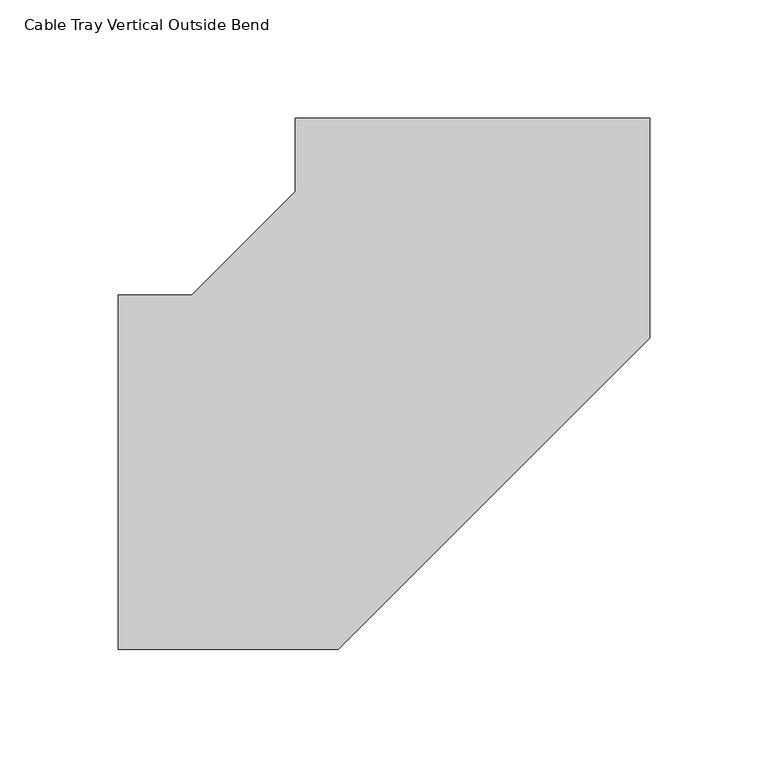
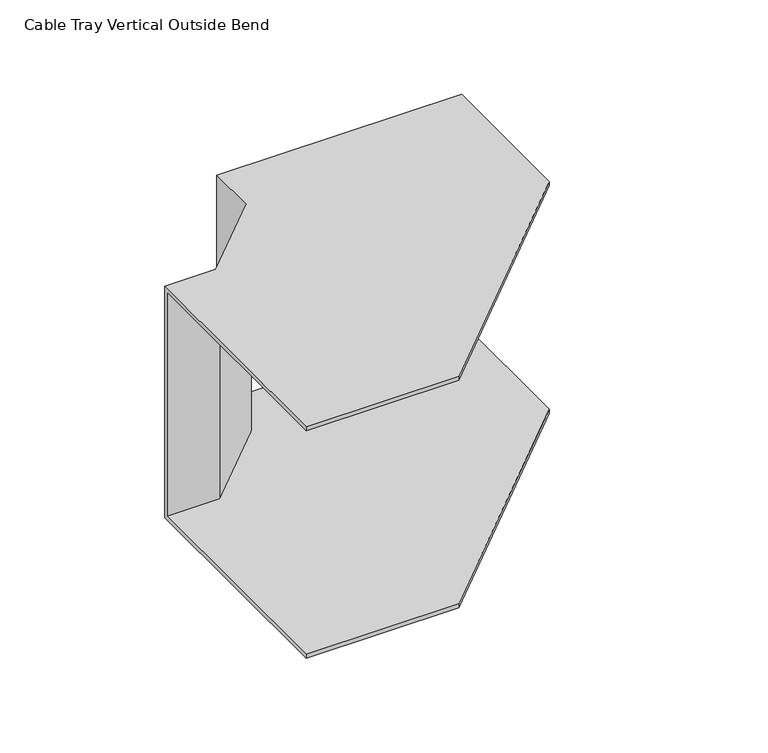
"""IFC4 building model written with IfcOpenShell, lengths in millimetres: cable carrier fitting geometry, Cable Tray Vertical Outside Bend : ELEC_ELV_TKG_N2402."""

import ifcopenshell
import ifcopenshell.guid

model = None  # the IFC model being written
_history = None  # IfcOwnerHistory: only IFC2X3 demands one
_inside = {}  # id of a spatial element -> (the spatial element, [elements in it])
_under = {}  # id of a project, library or spatial element -> (it, [spatial elements below it])
_declared = {}  # id of a project -> (the project, [libraries it declares])
_typed = {}  # id of a type object -> (the type object, [elements of that type])
_made_of = {}  # id of a material, layer set ... -> (it, [elements and type objects made of it])


def new_model(schema):
    """Start an empty IFC model of exactly this schema.

    Asked for "IFC4X3", IfcOpenShell would pick the latest addendum, in which some entities
    have other attributes; the version numbers below select the first issue.
    IFC2X3 requires an IfcOwnerHistory on every rooted entity: one is made here for all.
    """
    global model, _history
    if schema == "IFC4X3":
        model = ifcopenshell.file(schema_version=(4, 3, 0, 0))
    else:
        model = ifcopenshell.file(schema=schema)
    _inside.clear()
    _under.clear()
    _declared.clear()
    _typed.clear()
    _made_of.clear()
    _history = None
    if model.schema == "IFC2X3":
        org = make("IfcOrganization", Name="unknown")
        user = make(
            "IfcPersonAndOrganization",
            ThePerson=make("IfcPerson", FamilyName="unknown"),
            TheOrganization=org,
        )
        app = make(
            "IfcApplication",
            ApplicationDeveloper=org,
            Version="unknown",
            ApplicationFullName="unknown",
            ApplicationIdentifier="unknown",
        )
        _history = make(
            "IfcOwnerHistory",
            OwningUser=user,
            OwningApplication=app,
            ChangeAction="ADDED",
            CreationDate=0,
        )
    return model


def make(cls, **values):
    """One entity of the class cls with the attributes given. An attribute that is None is left unset."""
    return model.create_entity(
        cls, **{name: value for name, value in values.items() if value is not None}
    )


def rooted(cls, **values):
    """An entity with a GlobalId (a new one), such as an element, a storey or a relation."""
    return make(cls, GlobalId=ifcopenshell.guid.new(), OwnerHistory=_history, **values)


def si_unit(unit_type, name, prefix=None):
    """IfcSIUnit, for example si_unit("LENGTHUNIT", "METRE", prefix="MILLI")."""
    return make("IfcSIUnit", UnitType=unit_type, Prefix=prefix, Name=name)


def assignment(units):
    """IfcUnitAssignment: the units of a project."""
    return None if units is None else make("IfcUnitAssignment", Units=units)


def point(xyz):
    """IfcCartesianPoint."""
    return None if xyz is None else make("IfcCartesianPoint", Coordinates=xyz)


def direction(xyz):
    """IfcDirection."""
    return None if xyz is None else make("IfcDirection", DirectionRatios=xyz)


def frame(location, z_axis=None, x_axis=None):
    """IfcAxis2Placement3D, a coordinate frame: its origin and axes. An axis left out is left unset."""
    return make(
        "IfcAxis2Placement3D",
        Location=point(location),
        Axis=direction(z_axis),
        RefDirection=direction(x_axis),
    )


def origin():
    """The frame at (0, 0, 0) with its axes left unset."""
    return frame((0.0, 0.0, 0.0))


def place(relative_to, where):
    """IfcLocalPlacement: puts the frame where relative to a parent placement (None: the world)."""
    return make(
        "IfcLocalPlacement", PlacementRelTo=relative_to, RelativePlacement=where
    )


def context(
    kind, dimensions, precision=None, world=None, true_north=None, identifier=None
):
    """IfcGeometricRepresentationContext, for example the 3D "Model" context."""
    return make(
        "IfcGeometricRepresentationContext",
        ContextIdentifier=identifier,
        ContextType=kind,
        CoordinateSpaceDimension=dimensions,
        Precision=precision,
        WorldCoordinateSystem=world,
        TrueNorth=true_north,
    )


def project(units=None, contexts=None):
    """IfcProject with its units and contexts."""
    return rooted(
        "IfcProject",
        Name="project",
        RepresentationContexts=contexts,
        UnitsInContext=assignment(units),
    )


def spatial(cls, under=None, at=None, **own):
    """A site, building, storey or space (cls), placed at a placement, below another one or the project."""
    s = rooted(cls, ObjectPlacement=at, **own)
    if under is not None:
        _under.setdefault(under.id(), (under, []))[1].append(s)
    return s


def faces_of(points, faces, orient=None, outer=None):
    """IfcFace entities. A face is a list of loops; a loop is a list of indices into points, from 0.

    orient and outer hold one flag for each loop. By default every Orientation is true, the
    first loop of a face is its IfcFaceOuterBound and the others are IfcFaceBound.
    """
    made = []
    for i, loops in enumerate(faces):
        bounds = []
        for j, loop in enumerate(loops):
            is_outer = j == 0 if outer is None else outer[i][j]
            bounds.append(
                make(
                    "IfcFaceOuterBound" if is_outer else "IfcFaceBound",
                    Bound=make("IfcPolyLoop", Polygon=[points[k] for k in loop]),
                    Orientation=True if orient is None else orient[i][j],
                )
            )
        made.append(make("IfcFace", Bounds=bounds))
    return made


def faceted_brep(points, faces, orient=None, outer=None, voids=None):
    """IfcFacetedBrep: a solid bounded by flat faces; with voids (closed shells), ...WithVoids."""
    shared = [point(p) for p in points]
    hull = make("IfcClosedShell", CfsFaces=faces_of(shared, faces, orient, outer))
    if voids is None:
        return make("IfcFacetedBrep", Outer=hull)
    return make(
        "IfcFacetedBrepWithVoids",
        Outer=hull,
        Voids=[
            make(cls, CfsFaces=faces_of(shared, fs, o, b)) for cls, fs, o, b in voids
        ],
    )


def shape(context_of_items, identifier, shape_type, items):
    """IfcShapeRepresentation: the items that make up one representation, for example the "Body"."""
    return make(
        "IfcShapeRepresentation",
        ContextOfItems=context_of_items,
        RepresentationIdentifier=identifier,
        RepresentationType=shape_type,
        Items=items,
    )


def source(mapping_origin, context_of_items, identifier, shape_type, items):
    """IfcRepresentationMap: a shape defined once, which mapped items show again and again."""
    return make(
        "IfcRepresentationMap",
        MappingOrigin=mapping_origin,
        MappedRepresentation=shape(context_of_items, identifier, shape_type, items),
    )


def transform(
    local_origin,
    x_axis=None,
    y_axis=None,
    z_axis=None,
    scale=None,
    scale2=None,
    scale3=None,
    uniform=True,
):
    """IfcCartesianTransformationOperator3D, or its non-uniform kind. x_axis, y_axis, z_axis: its Axis1, 2, 3."""
    if uniform:
        return make(
            "IfcCartesianTransformationOperator3D",
            Axis1=direction(x_axis),
            Axis2=direction(y_axis),
            LocalOrigin=point(local_origin),
            Scale=scale,
            Axis3=direction(z_axis),
        )
    return make(
        "IfcCartesianTransformationOperator3DnonUniform",
        Axis1=direction(x_axis),
        Axis2=direction(y_axis),
        LocalOrigin=point(local_origin),
        Scale=scale,
        Axis3=direction(z_axis),
        Scale2=scale2,
        Scale3=scale3,
    )


def mapped(mapping_source, mapping_target):
    """IfcMappedItem: shows the shape of a source again, moved by a transform."""
    return make(
        "IfcMappedItem", MappingSource=mapping_source, MappingTarget=mapping_target
    )


def made_of(thing, what):
    """Note that an element or type object is made of a material, layer set ...; save() writes the relation."""
    if what is not None:
        _made_of.setdefault(what.id(), (what, []))[1].append(thing)
    return thing


def element(
    cls,
    number,
    at=None,
    inside=None,
    cuts=None,
    type_object=None,
    material=None,
    context=None,
    identifier="Body",
    shape_type=None,
    held_by="IfcProductDefinitionShape",
    body=None,
    shapes=None,
    **own,
):
    """One element of the class cls, such as IfcWall. Its Tag is "e" and its number.

    at: its placement. inside: the storey or other place that contains it. cuts: it is an
    opening in that element (IfcRelVoidsElement). A single representation is given by context,
    identifier, shape_type and body (its items); several are given by shapes. held_by: the class
    of the entity that holds the representations. save() writes the other relations.
    """
    e = rooted(cls, Tag="e%d" % number, ObjectPlacement=at, **own)
    if body is not None:
        shapes = [shape(context, identifier, shape_type, body)]
    if shapes is not None:
        e.Representation = make(held_by, Representations=shapes)
    if inside is not None:
        _inside.setdefault(inside.id(), (inside, []))[1].append(e)
    if cuts is not None:
        rooted(
            "IfcRelVoidsElement", RelatingBuildingElement=cuts, RelatedOpeningElement=e
        )
    if type_object is not None:
        _typed.setdefault(type_object.id(), (type_object, []))[1].append(e)
    return made_of(e, material)


def aggregate(whole, parts):
    """IfcRelAggregates: a whole, such as a stair, and the parts it consists of."""
    return rooted("IfcRelAggregates", RelatingObject=whole, RelatedObjects=parts)


def save(model, path):
    """Write the relations noted so far, then the file.

    IfcRelAggregates (storeys below a building ...), IfcRelContainedInSpatialStructure (elements
    in a storey), IfcRelDefinesByType, IfcRelAssociatesMaterial and IfcRelDeclares: one each for
    every whole, place, type object, material and project.
    """
    for whole, parts in _under.values():
        aggregate(whole, parts)
    for where, things in _inside.values():
        rooted(
            "IfcRelContainedInSpatialStructure",
            RelatedElements=things,
            RelatingStructure=where,
        )
    for kind, things in _typed.values():
        rooted("IfcRelDefinesByType", RelatedObjects=things, RelatingType=kind)
    for what, things in _made_of.values():
        rooted("IfcRelAssociatesMaterial", RelatedObjects=things, RelatingMaterial=what)
    for by, libraries in _declared.values():
        rooted("IfcRelDeclares", RelatingContext=by, RelatedDefinitions=libraries)
    model.write(path)


def cable_tray_vertical_outside_bend_b7c47c18(model_context):
    return source(origin(), model_context, "Body", "Brep", [
        faceted_brep([(-149.9990429, -75.0, 75.0), (-149.9990429, 75.0, 75.0), (-149.9990429, 75.0, -75.0), (-149.9990429, -75.0, -75.0), (-149.9990429, -75.0, -72.46), (-149.9990429, 72.46, -72.46), (-149.9990429, 72.46, 72.46), (-149.9990429, -75.0, 72.46), (75.0009571, 149.9985643, 75.0), (75.0009571, 149.9985643, 72.46), (-72.4590429, 149.9995052, 72.46), (-72.4590429, 149.9995052, -72.46), (75.0009571, 149.9985643, -72.46), (75.0009571, 149.9985643, -75.0), (-74.9990429, 149.9995214, -75.0), (-74.9990429, 149.9995214, 75.0), (-56.8014118, -75.0, 75.0), (75.0003624, 56.8009333, 75.0), (-74.9992411, 118.9336444, 75.0), (-118.9331658, 75.0, 75.0), (-118.9331658, 75.0, -75.0), (-74.9992411, 118.9336444, -75.0), (75.0003624, 56.8009333, -75.0), (-56.8014118, -75.0, -75.0), (-56.8014118, -75.0, -72.46), (75.0003624, 56.8009333, -72.46), (-72.4592478, 117.8815305, -72.46), (-117.8810682, 72.46, -72.46), (-117.8810682, 72.46, 72.46), (-72.4592478, 117.8815305, 72.46), (75.0003624, 56.8009333, 72.46), (-56.8014118, -75.0, 72.46)], [[[0, 1, 2, 3, 4, 5, 6, 7]], [[8, 9, 10, 11, 12, 13, 14, 15]], [[1, 0, 16, 17, 8, 15, 18, 19]], [[2, 1, 19, 20]], [[3, 2, 20, 21, 14, 13, 22, 23]], [[4, 3, 23, 24]], [[5, 4, 24, 25, 12, 11, 26, 27]], [[6, 5, 27, 28]], [[7, 6, 28, 29, 10, 9, 30, 31]], [[0, 7, 31, 16]], [[20, 19, 18, 21]], [[24, 23, 22, 25]], [[28, 27, 26, 29]], [[16, 31, 30, 17]], [[21, 18, 15, 14]], [[25, 22, 13, 12]], [[29, 26, 11, 10]], [[17, 30, 9, 8]]]),
    ])


if __name__ == "__main__":
    model = new_model("IFC4")
    model_context = context("Model", 3, world=origin())
    ifc_project = project(units=[si_unit("LENGTHUNIT", "METRE", prefix="MILLI")], contexts=[model_context])
    site = spatial("IfcSite", under=ifc_project)
    building = spatial("IfcBuilding", under=site)
    placement = place(None, origin())
    cable_tray_vertical_outside_bend_shape = cable_tray_vertical_outside_bend_b7c47c18(model_context)
    element("IfcCableCarrierFitting", 1, ObjectType="Cable Tray Vertical Outside Bend : ELEC_ELV_TKG_N2402", at=placement, inside=building, context=model_context, shape_type="MappedRepresentation", body=[
        mapped(cable_tray_vertical_outside_bend_shape, transform((0.0, 0.0, 0.0), x_axis=(1.0, 0.0, 0.0), y_axis=(0.0, 1.0, 0.0), z_axis=(0.0, 0.0, 1.0))),
    ])
    save(model, "model.ifc")
